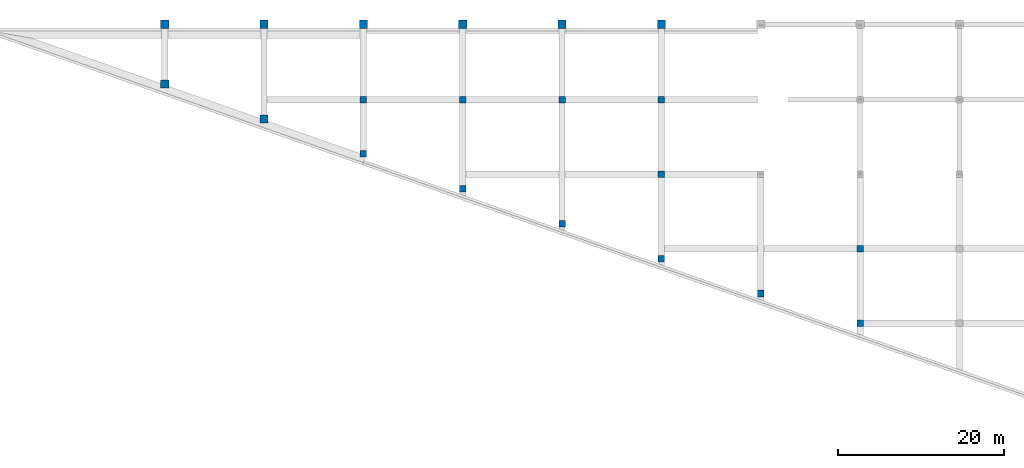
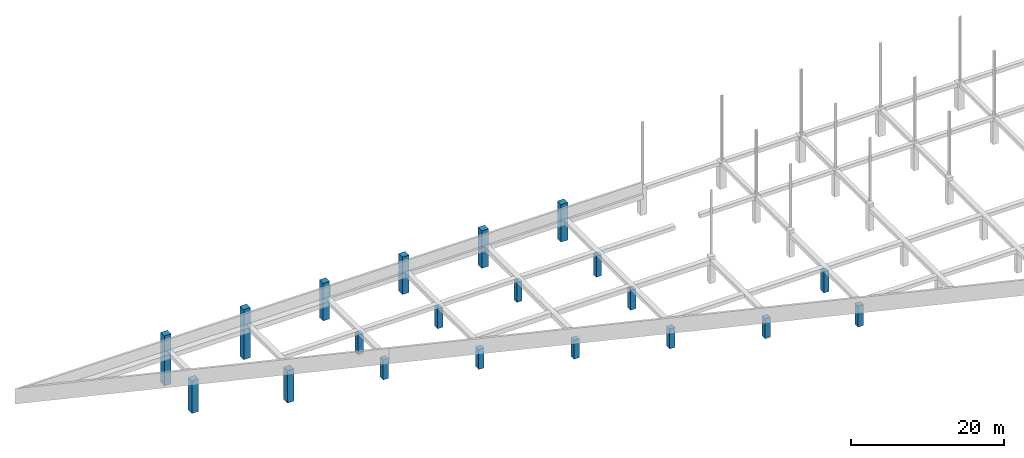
# One storey, part 1 of 19: 20 columns.
"""IFC2X3 building model written with IfcOpenShell, lengths in millimetres."""

from ifc_helpers import new_model, si_unit, origin, place, context, project, spatial, faceted_brep, material, element, save


model = new_model("IFC2X3")

# Units and contexts
context_of_model = context(None, 3, precision=1e-05, world=origin())
ifc_project = project(units=[si_unit("LENGTHUNIT", "METRE", prefix="MILLI")], contexts=[context_of_model])

# Building, storey
building = spatial("IfcBuilding", under=ifc_project, Name="Building", CompositionType="ELEMENT")
storey = spatial("IfcBuildingStorey", under=building, Name="FL2-FRM", CompositionType="ELEMENT")

# Columns
ifc_material_1 = material(Name="C5000")
column_1_placement = place(None, origin())
element("IfcColumn", 1, at=column_1_placement, inside=storey, material=ifc_material_1, Name="Column172", context=context_of_model, shape_type="Brep", body=[
    faceted_brep([(-95500.0, 35617.7, -1.1843e-12), (-95500.0, 36617.8, -1.1843e-12), (-95500.0, 36617.8, 6000.0), (-95500.0, 35617.7, 6000.0), (-96500.0, 36617.8, 1.1843e-12), (-96500.0, 36617.8, 6000.0), (-96500.0, 35617.7, 1.1843e-12), (-96500.0, 35617.7, 6000.0)], [[[0, 1, 2, 3]], [[1, 4, 5, 2]], [[4, 6, 7, 5]], [[6, 0, 3, 7]], [[0, 6, 4, 1]], [[3, 2, 5, 7]]]),
])
ifc_material_2 = material(Name="C5000")
column_2_placement = place(None, origin())
element("IfcColumn", 2, at=column_2_placement, inside=storey, material=ifc_material_2, Name="Column173", context=context_of_model, shape_type="Brep", body=[
    faceted_brep([(-83500.0, 35617.7, 0.0), (-83500.0, 36617.8, 0.0), (-83500.0, 36617.8, 6000.0), (-83500.0, 35617.7, 6000.0), (-84500.0, 36617.8, 0.0), (-84500.0, 36617.8, 6000.0), (-84500.0, 35617.7, 0.0), (-84500.0, 35617.7, 6000.0)], [[[0, 1, 2, 3]], [[1, 4, 5, 2]], [[4, 6, 7, 5]], [[6, 0, 3, 7]], [[0, 6, 4, 1]], [[3, 2, 5, 7]]]),
])
ifc_material_3 = material(Name="C5000")
column_3_placement = place(None, origin())
element("IfcColumn", 3, at=column_3_placement, inside=storey, material=ifc_material_3, Name="Column174", context=context_of_model, shape_type="Brep", body=[
    faceted_brep([(-71500.0, 35617.7, 0.0), (-71500.0, 36617.8, 0.0), (-71500.0, 36617.8, 6000.0), (-71500.0, 35617.7, 6000.0), (-72500.0, 36617.8, 0.0), (-72500.0, 36617.8, 6000.0), (-72500.0, 35617.7, 0.0), (-72500.0, 35617.7, 6000.0)], [[[0, 1, 2, 3]], [[1, 4, 5, 2]], [[4, 6, 7, 5]], [[6, 0, 3, 7]], [[0, 6, 4, 1]], [[3, 2, 5, 7]]]),
])
ifc_material_4 = material(Name="C5000")
column_4_placement = place(None, origin())
element("IfcColumn", 4, at=column_4_placement, inside=storey, material=ifc_material_4, Name="Column203", context=context_of_model, shape_type="Brep", body=[
    faceted_brep([(-131500.0, 28388.7, -2000.1), (-131500.0, 29388.7, -1999.78), (-131500.6, 29387.0, 3190.4), (-131500.6, 28387.0, 3190.4), (-132500.0, 29388.7, -1999.9), (-132500.6, 29387.0, 3190.4), (-132500.0, 28388.7, -2000.22), (-132500.6, 28387.0, 3190.4)], [[[0, 1, 2, 3]], [[1, 4, 5, 2]], [[4, 6, 7, 5]], [[6, 0, 3, 7]], [[0, 6, 4, 1]], [[3, 2, 5, 7]]]),
])
ifc_material_5 = material(Name="C5000")
column_5_placement = place(None, origin())
element("IfcColumn", 5, at=column_5_placement, inside=storey, material=ifc_material_5, Name="Column204", context=context_of_model, shape_type="Brep", body=[
    faceted_brep([(-119500.0, 24169.4, -2000.08), (-119500.0, 25169.4, -1999.91), (-119500.0, 25168.5, 3190.4), (-119500.0, 24168.5, 3190.4), (-120500.0, 25169.4, -1999.92), (-120500.1, 25168.5, 3190.4), (-120500.0, 24169.4, -2000.09), (-120500.1, 24168.5, 3190.4)], [[[0, 1, 2, 3]], [[1, 4, 5, 2]], [[4, 6, 7, 5]], [[6, 0, 3, 7]], [[0, 6, 4, 1]], [[3, 2, 5, 7]]]),
])
ifc_material_6 = material(Name="C5000")
column_6_placement = place(None, origin())
element("IfcColumn", 6, at=column_6_placement, inside=storey, material=ifc_material_6, Name="Column205", context=context_of_model, shape_type="Brep", body=[
    faceted_brep([(-131500.0, 35617.7, -2000.0), (-131500.0, 36617.8, -2000.0), (-131500.0, 36617.8, 6000.0), (-131500.0, 35617.7, 6000.0), (-132500.0, 36617.8, -2000.0), (-132500.0, 36617.8, 6000.0), (-132500.0, 35617.7, -2000.0), (-132500.0, 35617.7, 6000.0)], [[[0, 1, 2, 3]], [[1, 4, 5, 2]], [[4, 6, 7, 5]], [[6, 0, 3, 7]], [[0, 6, 4, 1]], [[3, 2, 5, 7]]]),
])
ifc_material_7 = material(Name="C5000")
column_7_placement = place(None, origin())
element("IfcColumn", 7, at=column_7_placement, inside=storey, material=ifc_material_7, Name="Column206", context=context_of_model, shape_type="Brep", body=[
    faceted_brep([(-119500.0, 35617.7, -2000.0), (-119500.0, 36617.8, -2000.0), (-119500.0, 36617.8, 6000.0), (-119500.0, 35617.7, 6000.0), (-120500.0, 36617.8, -2000.0), (-120500.0, 36617.8, 6000.0), (-120500.0, 35617.7, -2000.0), (-120500.0, 35617.7, 6000.0)], [[[0, 1, 2, 3]], [[1, 4, 5, 2]], [[4, 6, 7, 5]], [[6, 0, 3, 7]], [[0, 6, 4, 1]], [[3, 2, 5, 7]]]),
])
ifc_material_8 = material(Name="C5000")
column_8_placement = place(None, origin())
element("IfcColumn", 8, at=column_8_placement, inside=storey, material=ifc_material_8, Name="Column373", context=context_of_model, shape_type="Brep", body=[
    faceted_brep([(-107500.0, 35619.0, -1.1843e-12), (-107500.0, 36619.0, -1.1843e-12), (-107500.0, 36619.0, 6000.0), (-107500.0, 35619.0, 6000.0), (-108500.0, 36619.0, 1.1843e-12), (-108500.0, 36619.0, 6000.0), (-108500.0, 35619.0, 1.1843e-12), (-108500.0, 35619.0, 6000.0)], [[[0, 1, 2, 3]], [[1, 4, 5, 2]], [[4, 6, 7, 5]], [[6, 0, 3, 7]], [[0, 6, 4, 1]], [[3, 2, 5, 7]]]),
])
ifc_material_9 = material(Name="C5000")
column_9_placement = place(None, origin())
element("IfcColumn", 9, at=column_9_placement, inside=storey, material=ifc_material_9, Name="Column542", context=context_of_model, shape_type="Brep", body=[
    faceted_brep([(-95600.0, 26600.0, 1.6161e-27), (-95599.9, 27400.0, 1.6161e-27), (-95600.0, 27400.0, 3190.4), (-95600.0, 26599.9, 3190.4), (-96400.0, 27400.1, -1.6161e-27), (-96400.1, 27400.0, 3190.4), (-96400.0, 26600.0, -1.6161e-27), (-96400.1, 26599.9, 3190.4)], [[[0, 1, 2, 3]], [[1, 4, 5, 2]], [[4, 6, 7, 5]], [[6, 0, 3, 7]], [[0, 6, 4, 1]], [[3, 2, 5, 7]]]),
])
ifc_material_10 = material(Name="C5000")
column_10_placement = place(None, origin())
element("IfcColumn", 10, at=column_10_placement, inside=storey, material=ifc_material_10, Name="Column543", context=context_of_model, shape_type="Brep", body=[
    faceted_brep([(-107600.0, 26600.0, -3.857e-05), (-107600.0, 27400.0, 3.85702e-05), (-107600.0, 27400.0, 3190.4), (-107600.0, 26599.9, 3190.4), (-108400.0, 27400.0, 3.857e-05), (-108400.1, 27400.0, 3190.4), (-108400.0, 26600.0, -3.85702e-05), (-108400.1, 26599.9, 3190.4)], [[[0, 1, 2, 3]], [[1, 4, 5, 2]], [[4, 6, 7, 5]], [[6, 0, 3, 7]], [[0, 6, 4, 1]], [[3, 2, 5, 7]]]),
])
ifc_material_11 = material(Name="C5000")
column_11_placement = place(None, origin())
element("IfcColumn", 11, at=column_11_placement, inside=storey, material=ifc_material_11, Name="Column544", context=context_of_model, shape_type="Brep", body=[
    faceted_brep([(-107600.0, 20050.1, -2.76398e-10), (-107600.0, 20850.2, 5.78604e-10), (-107600.0, 20850.2, 3190.4), (-107600.0, 20050.1, 3190.4), (-108400.0, 20850.2, 2.76398e-10), (-108400.1, 20850.2, 3190.4), (-108400.0, 20050.1, -5.78604e-10), (-108400.1, 20050.1, 3190.4)], [[[0, 1, 2, 3]], [[1, 4, 5, 2]], [[4, 6, 7, 5]], [[6, 0, 3, 7]], [[0, 6, 4, 1]], [[3, 2, 5, 7]]]),
])
ifc_material_12 = material(Name="C5000")
column_12_placement = place(None, origin())
element("IfcColumn", 12, at=column_12_placement, inside=storey, material=ifc_material_12, Name="Column545", context=context_of_model, shape_type="Brep", body=[
    faceted_brep([(-95600.0, 15831.8, 1.43957e-33), (-95600.0, 16631.9, 1.43957e-33), (-95600.0, 16631.9, 3190.4), (-95600.0, 15831.8, 3190.4), (-96400.0, 16631.9, -1.43957e-33), (-96400.1, 16631.9, 3190.4), (-96400.0, 15831.8, -1.43957e-33), (-96400.1, 15831.8, 3190.4)], [[[0, 1, 2, 3]], [[1, 4, 5, 2]], [[4, 6, 7, 5]], [[6, 0, 3, 7]], [[0, 6, 4, 1]], [[3, 2, 5, 7]]]),
])
ifc_material_13 = material(Name="C5000")
column_13_placement = place(None, origin())
element("IfcColumn", 13, at=column_13_placement, inside=storey, material=ifc_material_13, Name="Column546", context=context_of_model, shape_type="Brep", body=[
    faceted_brep([(-83600.0, 26599.9, -1.91152e-05), (-83599.9, 27400.0, 1.91152e-05), (-83600.0, 27400.0, 3190.4), (-83600.0, 26599.9, 3190.4), (-84400.0, 27400.0, 1.91152e-05), (-84400.1, 27400.0, 3190.4), (-84400.0, 26599.9, -1.91152e-05), (-84400.1, 26599.9, 3190.4)], [[[0, 1, 2, 3]], [[1, 4, 5, 2]], [[4, 6, 7, 5]], [[6, 0, 3, 7]], [[0, 6, 4, 1]], [[3, 2, 5, 7]]]),
])
ifc_material_14 = material(Name="C5000")
column_14_placement = place(None, origin())
element("IfcColumn", 14, at=column_14_placement, inside=storey, material=ifc_material_14, Name="Column547", context=context_of_model, shape_type="Brep", body=[
    faceted_brep([(-71600.0, 26600.0, -177.8), (-71600.0, 27400.1, -177.8), (-71599.9, 27400.0, 3190.4), (-71599.9, 26599.9, 3190.4), (-72400.1, 27400.1, -177.8), (-72400.0, 27400.0, 3190.4), (-72400.1, 26600.0, -177.8), (-72400.0, 26599.9, 3190.4)], [[[0, 1, 2, 3]], [[1, 4, 5, 2]], [[4, 6, 7, 5]], [[6, 0, 3, 7]], [[0, 6, 4, 1]], [[3, 2, 5, 7]]]),
])
ifc_material_15 = material(Name="C5000")
column_15_placement = place(None, origin())
element("IfcColumn", 15, at=column_15_placement, inside=storey, material=ifc_material_15, Name="Column548", context=context_of_model, shape_type="Brep", body=[
    faceted_brep([(-71600.0, 17600.0, 3.74017e-13), (-71600.0, 18400.0, -3.74017e-13), (-71599.9, 18400.0, 3190.4), (-71599.9, 17599.9, 3190.4), (-72400.0, 18400.0, -3.74017e-13), (-72400.0, 18400.0, 3190.4), (-72400.0, 17599.9, 3.74017e-13), (-72400.0, 17599.9, 3190.4)], [[[0, 1, 2, 3]], [[1, 4, 5, 2]], [[4, 6, 7, 5]], [[6, 0, 3, 7]], [[0, 6, 4, 1]], [[3, 2, 5, 7]]]),
])
ifc_material_16 = material(Name="C5000")
column_16_placement = place(None, origin())
element("IfcColumn", 16, at=column_16_placement, inside=storey, material=ifc_material_16, Name="Column549", context=context_of_model, shape_type="Brep", body=[
    faceted_brep([(-71599.9, 7395.34, -1.17199e-06), (-71599.9, 8195.44, -5.6234e-07), (-71599.9, 8195.44, 3190.4), (-71599.9, 7395.34, 3190.4), (-72400.0, 8195.44, 1.17199e-06), (-72400.0, 8195.44, 3190.4), (-72400.0, 7395.34, 5.6234e-07), (-72400.0, 7395.34, 3190.4)], [[[0, 1, 2, 3]], [[1, 4, 5, 2]], [[4, 6, 7, 5]], [[6, 0, 3, 7]], [[0, 6, 4, 1]], [[3, 2, 5, 7]]]),
])
ifc_material_17 = material(Name="C5000")
column_17_placement = place(None, origin())
element("IfcColumn", 17, at=column_17_placement, inside=storey, material=ifc_material_17, Name="Column550", context=context_of_model, shape_type="Brep", body=[
    faceted_brep([(-59600.0, 3177.1, -4.77642e-36), (-59599.9, 3977.2, -4.77642e-36), (-59599.9, 3977.2, 3190.4), (-59599.9, 3177.1, 3190.4), (-60400.1, 3977.2, 4.77642e-36), (-60400.0, 3977.2, 3190.4), (-60400.1, 3177.1, 4.77642e-36), (-60400.0, 3177.1, 3190.4)], [[[0, 1, 2, 3]], [[1, 4, 5, 2]], [[4, 6, 7, 5]], [[6, 0, 3, 7]], [[0, 6, 4, 1]], [[3, 2, 5, 7]]]),
])
ifc_material_18 = material(Name="C5000")
column_18_placement = place(None, origin())
element("IfcColumn", 18, at=column_18_placement, inside=storey, material=ifc_material_18, Name="Column551", context=context_of_model, shape_type="Brep", body=[
    faceted_brep([(-47599.9, 8599.95, -177.8), (-47599.9, 9400.05, -177.8), (-47599.9, 9400.05, 3190.4), (-47599.9, 8599.95, 3190.4), (-48400.0, 9400.05, -177.8), (-48400.0, 9400.05, 3190.4), (-48400.0, 8599.95, -177.8), (-48400.0, 8599.95, 3190.4)], [[[0, 1, 2, 3]], [[1, 4, 5, 2]], [[4, 6, 7, 5]], [[6, 0, 3, 7]], [[0, 6, 4, 1]], [[3, 2, 5, 7]]]),
])
ifc_material_19 = material(Name="C5000")
column_19_placement = place(None, origin())
element("IfcColumn", 19, at=column_19_placement, inside=storey, material=ifc_material_19, Name="Column552", context=context_of_model, shape_type="Brep", body=[
    faceted_brep([(-47600.0, -400.05, -177.8), (-47600.0, 400.05, -177.8), (-47599.9, 400.05, 3190.4), (-47599.9, -400.05, 3190.4), (-48400.1, 400.05, -177.8), (-48400.0, 400.05, 3190.4), (-48400.1, -400.05, -177.8), (-48400.0, -400.05, 3190.4)], [[[0, 1, 2, 3]], [[1, 4, 5, 2]], [[4, 6, 7, 5]], [[6, 0, 3, 7]], [[0, 6, 4, 1]], [[3, 2, 5, 7]]]),
])
ifc_material_20 = material(Name="C5000")
column_20_placement = place(None, origin())
element("IfcColumn", 20, at=column_20_placement, inside=storey, material=ifc_material_20, Name="Column567", context=context_of_model, shape_type="Brep", body=[
    faceted_brep([(-83600.0, 11613.6, 5.01288e-33), (-83600.0, 12413.7, 5.01288e-33), (-83600.0, 12413.7, 3038.0), (-83600.0, 11613.6, 3038.0), (-84400.0, 12413.7, -5.01288e-33), (-84400.1, 12413.7, 3038.0), (-84400.0, 11613.6, -5.01288e-33), (-84400.1, 11613.6, 3038.0)], [[[0, 1, 2, 3]], [[1, 4, 5, 2]], [[4, 6, 7, 5]], [[6, 0, 3, 7]], [[0, 6, 4, 1]], [[3, 2, 5, 7]]]),
])

save(model, "model.ifc")
